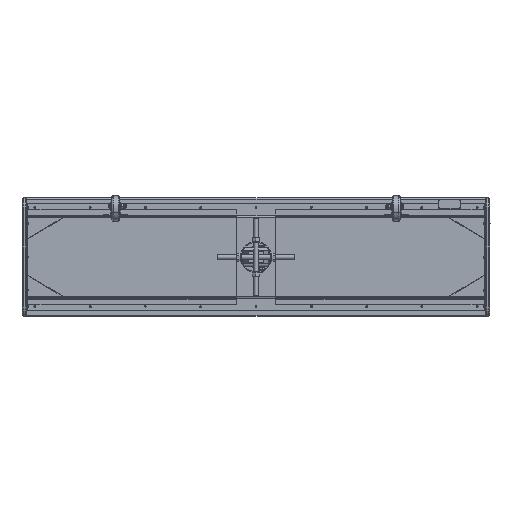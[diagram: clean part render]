
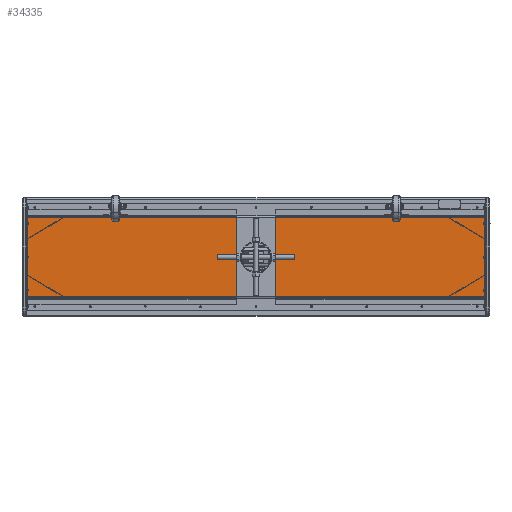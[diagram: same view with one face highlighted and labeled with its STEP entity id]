
A CAD part, front view. The second image highlights one B-rep face of the part: STEP entity #34335.
In plain terms, the highlighted planar face has unit normal (0, -1, 0).
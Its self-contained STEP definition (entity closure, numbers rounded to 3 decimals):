
#544 = DIRECTION ( 'NONE',  ( 0., 0., 1. ) ) ;
#688 = ORIENTED_EDGE ( 'NONE', *, *, #5664, .F. ) ;
#788 = CARTESIAN_POINT ( 'NONE',  ( 589.5, 440.909, 101.5 ) ) ;
#2119 = ORIENTED_EDGE ( 'NONE', *, *, #34622, .T. ) ;
#2755 = VERTEX_POINT ( 'NONE', #10108 ) ;
#3088 = CARTESIAN_POINT ( 'NONE',  ( -589.5, 440.909, -101.5 ) ) ;
#3951 = LINE ( 'NONE', #11625, #27681 ) ;
#5664 = EDGE_CURVE ( 'NONE', #2755, #35805, #32954, .T. ) ;
#5806 = EDGE_CURVE ( 'NONE', #34689, #35805, #21958, .T. ) ;
#6167 = CARTESIAN_POINT ( 'NONE',  ( 0., 440.909, 0. ) ) ;
#7205 = LINE ( 'NONE', #3088, #12952 ) ;
#7554 = FACE_OUTER_BOUND ( 'NONE', #30600, .T. ) ;
#9041 = PLANE ( 'NONE',  #26465 ) ;
#9310 = VECTOR ( 'NONE', #17499, 1000. ) ;
#10108 = CARTESIAN_POINT ( 'NONE',  ( 589.5, 440.909, 101.5 ) ) ;
#11625 = CARTESIAN_POINT ( 'NONE',  ( 592.5, 440.909, 101.5 ) ) ;
#11700 = VERTEX_POINT ( 'NONE', #17244 ) ;
#12952 = VECTOR ( 'NONE', #544, 1000. ) ;
#13210 = VECTOR ( 'NONE', #35194, 1000. ) ;
#15451 = ORIENTED_EDGE ( 'NONE', *, *, #33523, .F. ) ;
#17244 = CARTESIAN_POINT ( 'NONE',  ( -589.5, 440.909, 101.5 ) ) ;
#17499 = DIRECTION ( 'NONE',  ( 0., 0., -1. ) ) ;
#21108 = ORIENTED_EDGE ( 'NONE', *, *, #5806, .T. ) ;
#21958 = LINE ( 'NONE', #35055, #13210 ) ;
#25302 = DIRECTION ( 'NONE',  ( -1., 0., 0. ) ) ;
#26465 = AXIS2_PLACEMENT_3D ( 'NONE', #6167, #28730, #31558 ) ;
#27681 = VECTOR ( 'NONE', #25302, 1000. ) ;
#28730 = DIRECTION ( 'NONE',  ( 0., -1., 0. ) ) ;
#28844 = CARTESIAN_POINT ( 'NONE',  ( -589.5, 440.909, -101.5 ) ) ;
#30600 = EDGE_LOOP ( 'NONE', ( #2119, #15451, #21108, #688 ) ) ;
#31558 = DIRECTION ( 'NONE',  ( 0., 0., -1. ) ) ;
#32559 = CARTESIAN_POINT ( 'NONE',  ( 589.5, 440.909, -101.5 ) ) ;
#32954 = LINE ( 'NONE', #788, #9310 ) ;
#33523 = EDGE_CURVE ( 'NONE', #34689, #11700, #7205, .T. ) ;
#34335 = ADVANCED_FACE ( 'NONE', ( #7554 ), #9041, .T. ) ;
#34622 = EDGE_CURVE ( 'NONE', #2755, #11700, #3951, .T. ) ;
#34689 = VERTEX_POINT ( 'NONE', #28844 ) ;
#35055 = CARTESIAN_POINT ( 'NONE',  ( -592.5, 440.909, -101.5 ) ) ;
#35194 = DIRECTION ( 'NONE',  ( 1., 0., 0. ) ) ;
#35805 = VERTEX_POINT ( 'NONE', #32559 ) ;
